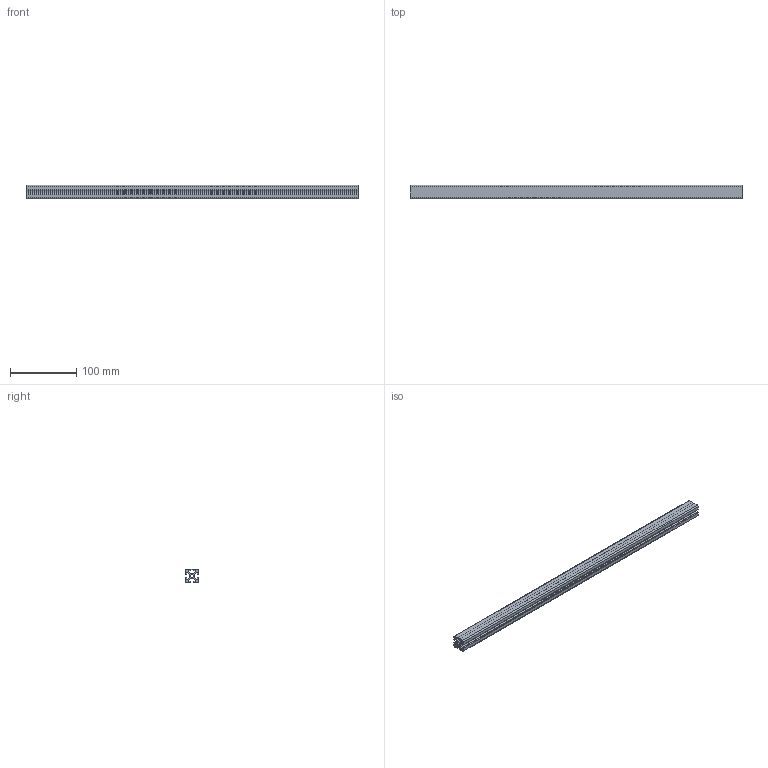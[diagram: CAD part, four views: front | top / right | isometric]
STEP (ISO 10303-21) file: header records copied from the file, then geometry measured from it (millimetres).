
FILE_DESCRIPTION (( 'STEP AP203' ), '1' );
FILE_NAME ('RP4031.STEP', '2026-05-12T12:39:33', ( '' ), ( '' ), 'SwSTEP 2.0', 'SolidWorks 2026', '' );
FILE_SCHEMA (( 'CONFIG_CONTROL_DESIGN' ));
Length unit declared in the file: millimetre
Products named in the file (1): RP4031
Bounding box: 500 x 20 x 20 mm (x, y, z)
Volume: 94405.2 mm3; surface area: 89403.5 mm2
Topology: 1 solids, 1 shells, 78 faces, 228 edges, 152 vertices
Faces by surface type: cylinder 40, plane 38
Entity records: 2697 total; most frequent: DIRECTION 466, CARTESIAN_POINT 459, ORIENTED_EDGE 456, EDGE_CURVE 228, AXIS2_PLACEMENT_3D 159, VERTEX_POINT 152, LINE 148, VECTOR 148
